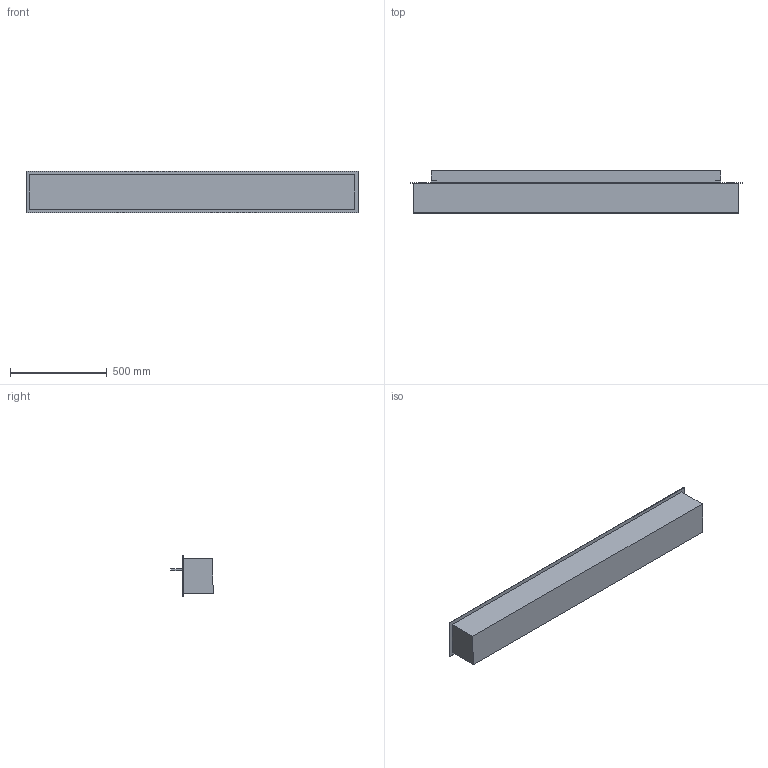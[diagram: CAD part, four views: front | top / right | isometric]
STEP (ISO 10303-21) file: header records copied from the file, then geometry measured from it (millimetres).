
FILE_DESCRIPTION (( 'STEP AP203' ), '1' );
FILE_NAME ('Denver F6 1720.STEP', '2024-03-13T09:21:16', ( '' ), ( '' ), 'SwSTEP 2.0', 'SolidWorks 2023', '' );
FILE_SCHEMA (( 'CONFIG_CONTROL_DESIGN' ));
Length unit declared in the file: millimetre
Products named in the file (1): Denver F6 1720
Bounding box: 1720 x 220 x 215 mm (x, y, z)
Volume: 47944219 mm3; surface area: 2174071.8 mm2
Topology: 8 solids, 8 shells, 68 faces, 156 edges, 104 vertices
Faces by surface type: plane 68
Entity records: 1955 total; most frequent: CARTESIAN_POINT 329, ORIENTED_EDGE 312, DIRECTION 294, LINE 156, EDGE_CURVE 156, VECTOR 156, VERTEX_POINT 104, EDGE_LOOP 74
